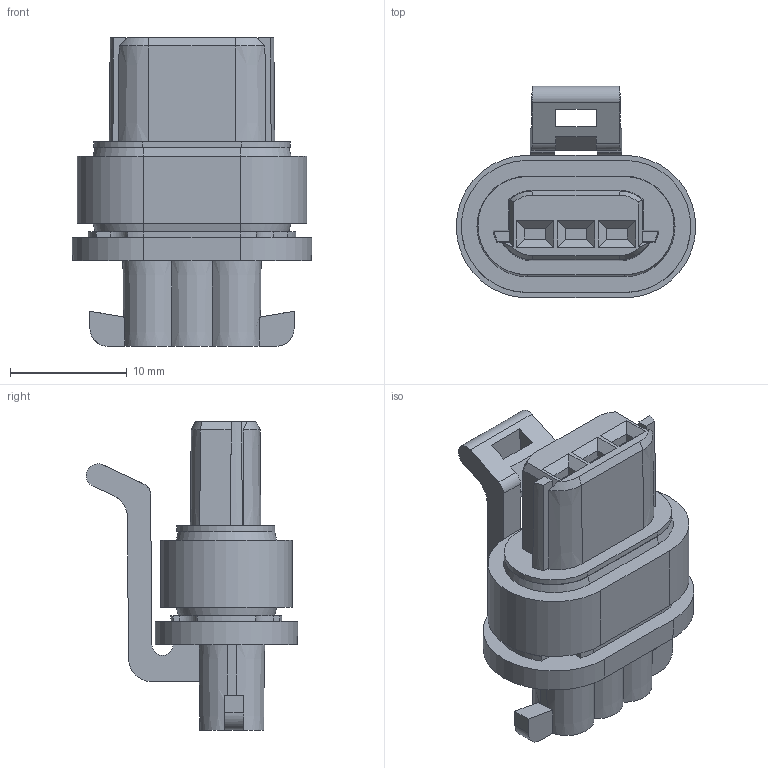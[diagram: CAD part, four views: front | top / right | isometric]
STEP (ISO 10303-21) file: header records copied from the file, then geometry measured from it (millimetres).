
FILE_DESCRIPTION(/* description */ (''),/* implementation_level */ '2;1');
FILE_NAME(/* name */ '15336029-ENV1104.stp',/* time_stamp */ '2019-07-30T17:11:00+06:00',/* author */ (''),/* organization */ (''),/* preprocessor_version */ 'ST-DEVELOPER v16',/* originating_system */ 'SIEMENS PLM Software NX 11.0',/* authorisation */ '');
FILE_SCHEMA (('AUTOMOTIVE_DESIGN { 1 0 10303 214 3 1 1 1 }'));
Length unit declared in the file: millimetre
Products named in the file (1): 15336029-ENV11_04-CONN
Bounding box: 20.5 x 18.1 x 26.4 mm (x, y, z)
Volume: 3150.4 mm3; surface area: 2163.9 mm2
Topology: 1 solids, 1 shells, 159 faces, 421 edges, 270 vertices
Faces by surface type: plane 112, cone 30, cylinder 17
Entity records: 4965 total; most frequent: CARTESIAN_POINT 959, ORIENTED_EDGE 842, DIRECTION 819, EDGE_CURVE 421, LINE 279, VECTOR 279, VERTEX_POINT 270, AXIS2_PLACEMENT_3D 270
